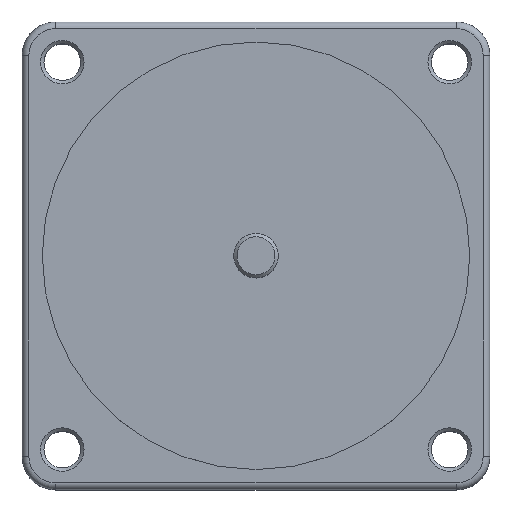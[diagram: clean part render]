
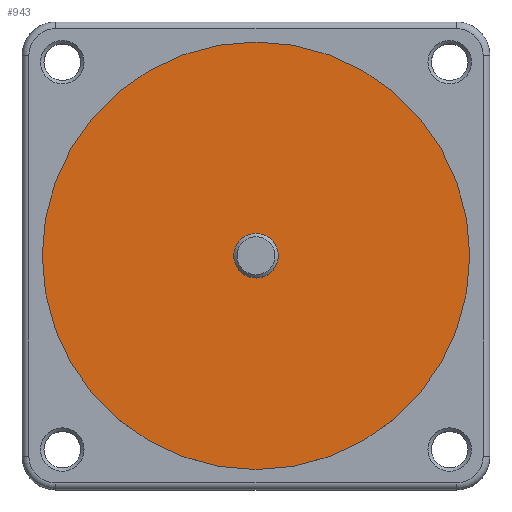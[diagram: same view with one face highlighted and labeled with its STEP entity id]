
A CAD part, top view. The second image highlights one B-rep face of the part: STEP entity #943.
In plain terms, the highlighted planar face has unit normal (0, 0, 1).
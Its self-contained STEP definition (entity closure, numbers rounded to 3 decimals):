
#701=CARTESIAN_POINT('',(3.335,0.,32.0));
#702=VERTEX_POINT('',#701);
#703=CARTESIAN_POINT('',(0.0,0.0,32.0));
#704=DIRECTION('',(0.0,0.0,-1.0));
#705=DIRECTION('',(-1.0,0.0,0.0));
#706=AXIS2_PLACEMENT_3D('',#703,#704,#705);
#707=CIRCLE('',#706,3.335);
#708=EDGE_CURVE('',#702,#702,#707,.T.);
#917=CARTESIAN_POINT('',(32.0,0.,32.0));
#918=VERTEX_POINT('',#917);
#919=CARTESIAN_POINT('',(0.0,0.0,32.0));
#920=DIRECTION('',(0.0,0.0,-1.0));
#921=DIRECTION('',(-1.0,0.0,0.0));
#922=AXIS2_PLACEMENT_3D('',#919,#920,#921);
#923=CIRCLE('',#922,32.0);
#924=EDGE_CURVE('',#918,#918,#923,.T.);
#932=CARTESIAN_POINT('',(0.0,0.0,32.0));
#933=DIRECTION('',(0.0,0.0,-1.0));
#934=DIRECTION('',(-1.0,0.0,0.0));
#935=AXIS2_PLACEMENT_3D('',#932,#933,#934);
#936=PLANE('',#935);
#937=ORIENTED_EDGE('',*,*,#924,.F.);
#938=EDGE_LOOP('',(#937));
#939=FACE_OUTER_BOUND('',#938,.T.);
#940=ORIENTED_EDGE('',*,*,#708,.T.);
#941=EDGE_LOOP('',(#940));
#942=FACE_BOUND('',#941,.T.);
#943=ADVANCED_FACE('',(#939,#942),#936,.F.);
